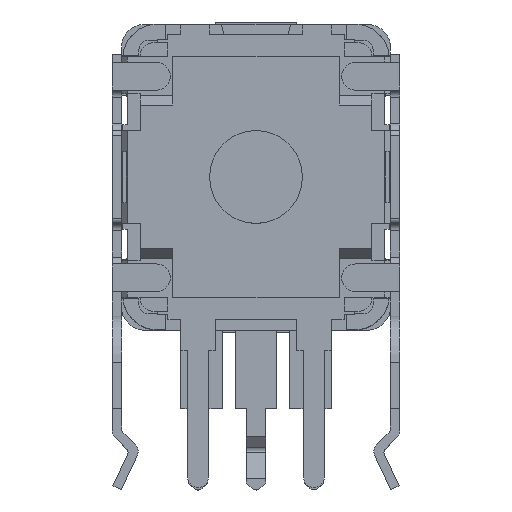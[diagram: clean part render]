
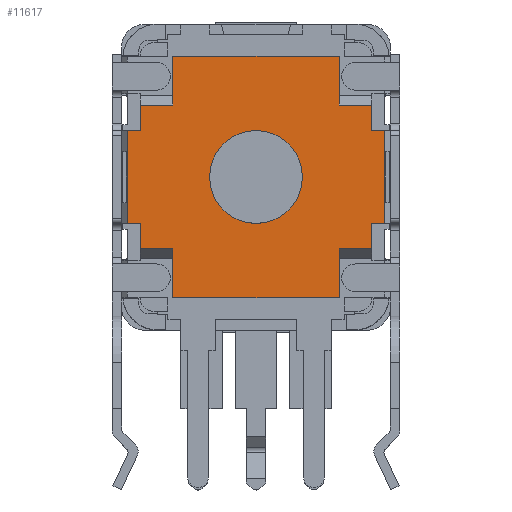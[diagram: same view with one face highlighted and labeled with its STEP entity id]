
A CAD part, top view. The second image highlights one B-rep face of the part: STEP entity #11617.
In plain terms, the highlighted planar face has unit normal (0, 0, 1).
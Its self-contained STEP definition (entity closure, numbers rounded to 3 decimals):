
#11162=CARTESIAN_POINT('',(3.6,3.162,7.));
#11163=VERTEX_POINT('',#11162);
#11172=CARTESIAN_POINT('',(3.6,3.1,7.));
#11173=VERTEX_POINT('',#11172);
#11174=CARTESIAN_POINT('',(3.6,3.1,7.));
#11175=DIRECTION('',(0.0,1.0,0.0));
#11176=VECTOR('',#11175,0.062);
#11177=LINE('',#11174,#11176);
#11178=EDGE_CURVE('',#11173,#11163,#11177,.T.);
#11194=CARTESIAN_POINT('',(-3.6,-3.162,7.));
#11195=VERTEX_POINT('',#11194);
#11204=CARTESIAN_POINT('',(-3.6,-3.1,7.));
#11205=VERTEX_POINT('',#11204);
#11206=CARTESIAN_POINT('',(-3.6,-3.1,7.));
#11207=DIRECTION('',(0.0,-1.0,0.0));
#11208=VECTOR('',#11207,0.062);
#11209=LINE('',#11206,#11208);
#11210=EDGE_CURVE('',#11205,#11195,#11209,.T.);
#11226=CARTESIAN_POINT('',(5.55,-2.,7.));
#11227=VERTEX_POINT('',#11226);
#11228=CARTESIAN_POINT('',(5.55,2.,7.));
#11229=VERTEX_POINT('',#11228);
#11230=CARTESIAN_POINT('',(5.55,-2.,7.));
#11231=DIRECTION('',(0.0,1.0,0.0));
#11232=VECTOR('',#11231,4.);
#11233=LINE('',#11230,#11232);
#11234=EDGE_CURVE('',#11227,#11229,#11233,.T.);
#11266=CARTESIAN_POINT('',(5.,3.1,7.));
#11267=VERTEX_POINT('',#11266);
#11268=CARTESIAN_POINT('',(5.,3.1,7.));
#11269=DIRECTION('',(-1.0,0.0,0.0));
#11270=VECTOR('',#11269,1.4);
#11271=LINE('',#11268,#11270);
#11272=EDGE_CURVE('',#11267,#11173,#11271,.T.);
#11299=CARTESIAN_POINT('',(-3.6,3.162,7.));
#11300=VERTEX_POINT('',#11299);
#11307=CARTESIAN_POINT('',(-3.6,3.1,7.));
#11308=VERTEX_POINT('',#11307);
#11315=CARTESIAN_POINT('',(-3.6,3.162,7.));
#11316=DIRECTION('',(0.,-1.0,0.0));
#11317=VECTOR('',#11316,0.062);
#11318=LINE('',#11315,#11317);
#11319=EDGE_CURVE('',#11300,#11308,#11318,.T.);
#11329=CARTESIAN_POINT('',(-5.,3.1,7.0));
#11330=VERTEX_POINT('',#11329);
#11331=CARTESIAN_POINT('',(-3.6,3.1,7.));
#11332=DIRECTION('',(-1.0,0.0,0.0));
#11333=VECTOR('',#11332,1.4);
#11334=LINE('',#11331,#11333);
#11335=EDGE_CURVE('',#11308,#11330,#11334,.T.);
#11360=CARTESIAN_POINT('',(-5.55,2.,7.0));
#11361=VERTEX_POINT('',#11360);
#11362=CARTESIAN_POINT('',(-5.55,-2.,7.0));
#11363=VERTEX_POINT('',#11362);
#11364=CARTESIAN_POINT('',(-5.55,2.,7.0));
#11365=DIRECTION('',(0.0,-1.0,0.0));
#11366=VECTOR('',#11365,4.);
#11367=LINE('',#11364,#11366);
#11368=EDGE_CURVE('',#11361,#11363,#11367,.T.);
#11400=CARTESIAN_POINT('',(-5.,-3.1,7.0));
#11401=VERTEX_POINT('',#11400);
#11402=CARTESIAN_POINT('',(-5.,-3.1,7.0));
#11403=DIRECTION('',(1.0,0.0,0.0));
#11404=VECTOR('',#11403,1.4);
#11405=LINE('',#11402,#11404);
#11406=EDGE_CURVE('',#11401,#11205,#11405,.T.);
#11433=CARTESIAN_POINT('',(3.6,-3.162,7.));
#11434=VERTEX_POINT('',#11433);
#11441=CARTESIAN_POINT('',(3.6,-3.1,7.));
#11442=VERTEX_POINT('',#11441);
#11449=CARTESIAN_POINT('',(3.6,-3.162,7.));
#11450=DIRECTION('',(0.,1.0,0.0));
#11451=VECTOR('',#11450,0.062);
#11452=LINE('',#11449,#11451);
#11453=EDGE_CURVE('',#11434,#11442,#11452,.T.);
#11463=CARTESIAN_POINT('',(5.,-3.1,7.));
#11464=VERTEX_POINT('',#11463);
#11465=CARTESIAN_POINT('',(3.6,-3.1,7.));
#11466=DIRECTION('',(1.0,0.0,0.0));
#11467=VECTOR('',#11466,1.4);
#11468=LINE('',#11465,#11467);
#11469=EDGE_CURVE('',#11442,#11464,#11468,.T.);
#11489=CARTESIAN_POINT('',(0.,0.,7.));
#11490=DIRECTION('',(0.0,0.0,-1.0));
#11491=DIRECTION('',(-1.0,0.0,0.0));
#11492=AXIS2_PLACEMENT_3D('',#11489,#11490,#11491);
#11493=PLANE('',#11492);
#11494=CARTESIAN_POINT('',(5.,-2.,7.));
#11495=VERTEX_POINT('',#11494);
#11496=CARTESIAN_POINT('',(5.,-2.,7.));
#11497=DIRECTION('',(0.0,-1.0,0.0));
#11498=VECTOR('',#11497,1.1);
#11499=LINE('',#11496,#11498);
#11500=EDGE_CURVE('',#11495,#11464,#11499,.T.);
#11501=ORIENTED_EDGE('',*,*,#11500,.F.);
#11502=CARTESIAN_POINT('',(5.55,-2.,7.));
#11503=DIRECTION('',(-1.0,0.0,0.0));
#11504=VECTOR('',#11503,0.55);
#11505=LINE('',#11502,#11504);
#11506=EDGE_CURVE('',#11227,#11495,#11505,.T.);
#11507=ORIENTED_EDGE('',*,*,#11506,.F.);
#11508=ORIENTED_EDGE('',*,*,#11234,.T.);
#11509=CARTESIAN_POINT('',(5.,2.,7.));
#11510=VERTEX_POINT('',#11509);
#11511=CARTESIAN_POINT('',(5.,2.,7.));
#11512=DIRECTION('',(1.0,0.0,0.0));
#11513=VECTOR('',#11512,0.55);
#11514=LINE('',#11511,#11513);
#11515=EDGE_CURVE('',#11510,#11229,#11514,.T.);
#11516=ORIENTED_EDGE('',*,*,#11515,.F.);
#11517=CARTESIAN_POINT('',(5.,3.1,7.));
#11518=DIRECTION('',(0.0,-1.0,0.0));
#11519=VECTOR('',#11518,1.1);
#11520=LINE('',#11517,#11519);
#11521=EDGE_CURVE('',#11267,#11510,#11520,.T.);
#11522=ORIENTED_EDGE('',*,*,#11521,.F.);
#11523=ORIENTED_EDGE('',*,*,#11272,.T.);
#11524=ORIENTED_EDGE('',*,*,#11178,.T.);
#11525=CARTESIAN_POINT('',(3.6,5.2,7.));
#11526=VERTEX_POINT('',#11525);
#11527=CARTESIAN_POINT('',(3.6,5.2,7.));
#11528=DIRECTION('',(0.0,-1.0,0.0));
#11529=VECTOR('',#11528,2.038);
#11530=LINE('',#11527,#11529);
#11531=EDGE_CURVE('',#11526,#11163,#11530,.T.);
#11532=ORIENTED_EDGE('',*,*,#11531,.F.);
#11533=CARTESIAN_POINT('',(-3.6,5.2,7.));
#11534=VERTEX_POINT('',#11533);
#11535=CARTESIAN_POINT('',(-3.6,5.2,7.));
#11536=DIRECTION('',(1.0,0.0,0.0));
#11537=VECTOR('',#11536,7.2);
#11538=LINE('',#11535,#11537);
#11539=EDGE_CURVE('',#11534,#11526,#11538,.T.);
#11540=ORIENTED_EDGE('',*,*,#11539,.F.);
#11541=CARTESIAN_POINT('',(-3.6,3.162,7.));
#11542=DIRECTION('',(0.0,1.0,0.0));
#11543=VECTOR('',#11542,2.038);
#11544=LINE('',#11541,#11543);
#11545=EDGE_CURVE('',#11300,#11534,#11544,.T.);
#11546=ORIENTED_EDGE('',*,*,#11545,.F.);
#11547=ORIENTED_EDGE('',*,*,#11319,.T.);
#11548=ORIENTED_EDGE('',*,*,#11335,.T.);
#11549=CARTESIAN_POINT('',(-5.,2.,7.0));
#11550=VERTEX_POINT('',#11549);
#11551=CARTESIAN_POINT('',(-5.,2.,7.0));
#11552=DIRECTION('',(0.0,1.0,0.0));
#11553=VECTOR('',#11552,1.1);
#11554=LINE('',#11551,#11553);
#11555=EDGE_CURVE('',#11550,#11330,#11554,.T.);
#11556=ORIENTED_EDGE('',*,*,#11555,.F.);
#11557=CARTESIAN_POINT('',(-5.55,2.,7.0));
#11558=DIRECTION('',(1.0,0.0,0.0));
#11559=VECTOR('',#11558,0.55);
#11560=LINE('',#11557,#11559);
#11561=EDGE_CURVE('',#11361,#11550,#11560,.T.);
#11562=ORIENTED_EDGE('',*,*,#11561,.F.);
#11563=ORIENTED_EDGE('',*,*,#11368,.T.);
#11564=CARTESIAN_POINT('',(-5.,-2.,7.0));
#11565=VERTEX_POINT('',#11564);
#11566=CARTESIAN_POINT('',(-5.,-2.,7.));
#11567=DIRECTION('',(-1.0,0.0,0.0));
#11568=VECTOR('',#11567,0.55);
#11569=LINE('',#11566,#11568);
#11570=EDGE_CURVE('',#11565,#11363,#11569,.T.);
#11571=ORIENTED_EDGE('',*,*,#11570,.F.);
#11572=CARTESIAN_POINT('',(-5.,-3.1,7.0));
#11573=DIRECTION('',(0.0,1.0,0.0));
#11574=VECTOR('',#11573,1.1);
#11575=LINE('',#11572,#11574);
#11576=EDGE_CURVE('',#11401,#11565,#11575,.T.);
#11577=ORIENTED_EDGE('',*,*,#11576,.F.);
#11578=ORIENTED_EDGE('',*,*,#11406,.T.);
#11579=ORIENTED_EDGE('',*,*,#11210,.T.);
#11580=CARTESIAN_POINT('',(-3.6,-5.2,7.));
#11581=VERTEX_POINT('',#11580);
#11582=CARTESIAN_POINT('',(-3.6,-5.2,7.));
#11583=DIRECTION('',(0.0,1.0,0.0));
#11584=VECTOR('',#11583,2.038);
#11585=LINE('',#11582,#11584);
#11586=EDGE_CURVE('',#11581,#11195,#11585,.T.);
#11587=ORIENTED_EDGE('',*,*,#11586,.F.);
#11588=CARTESIAN_POINT('',(3.6,-5.2,7.));
#11589=VERTEX_POINT('',#11588);
#11590=CARTESIAN_POINT('',(3.6,-5.2,7.));
#11591=DIRECTION('',(-1.0,0.0,0.0));
#11592=VECTOR('',#11591,7.2);
#11593=LINE('',#11590,#11592);
#11594=EDGE_CURVE('',#11589,#11581,#11593,.T.);
#11595=ORIENTED_EDGE('',*,*,#11594,.F.);
#11596=CARTESIAN_POINT('',(3.6,-3.162,7.));
#11597=DIRECTION('',(0.0,-1.0,0.0));
#11598=VECTOR('',#11597,2.038);
#11599=LINE('',#11596,#11598);
#11600=EDGE_CURVE('',#11434,#11589,#11599,.T.);
#11601=ORIENTED_EDGE('',*,*,#11600,.F.);
#11602=ORIENTED_EDGE('',*,*,#11453,.T.);
#11603=ORIENTED_EDGE('',*,*,#11469,.T.);
#11604=EDGE_LOOP('',(#11501,#11507,#11508,#11516,#11522,#11523,#11524,#11532,#11540,#11546,#11547,#11548,#11556,#11562,#11563,#11571,#11577,#11578,#11579,#11587,#11595,#11601,#11602,#11603));
#11605=FACE_OUTER_BOUND('',#11604,.T.);
#11606=CARTESIAN_POINT('',(2.,0.,7.));
#11607=VERTEX_POINT('',#11606);
#11608=CARTESIAN_POINT('',(0.,0.,7.));
#11609=DIRECTION('',(0.0,0.0,1.0));
#11610=DIRECTION('',(-1.0,0.0,0.0));
#11611=AXIS2_PLACEMENT_3D('',#11608,#11609,#11610);
#11612=CIRCLE('',#11611,2.0);
#11613=EDGE_CURVE('',#11607,#11607,#11612,.T.);
#11614=ORIENTED_EDGE('',*,*,#11613,.F.);
#11615=EDGE_LOOP('',(#11614));
#11616=FACE_BOUND('',#11615,.T.);
#11617=ADVANCED_FACE('',(#11605,#11616),#11493,.F.);
